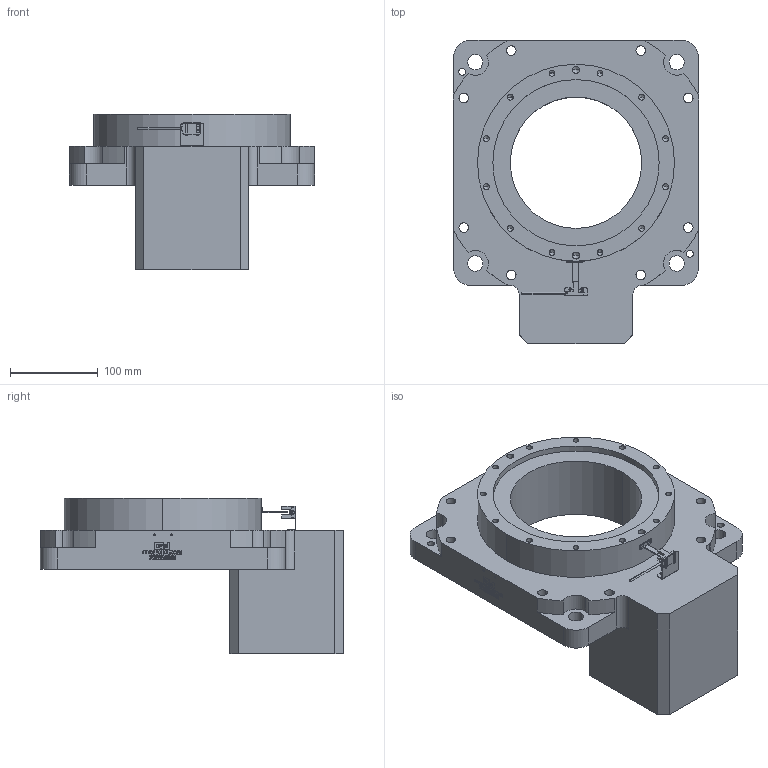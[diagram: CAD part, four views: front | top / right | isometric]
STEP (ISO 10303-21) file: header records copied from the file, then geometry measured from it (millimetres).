
FILE_DESCRIPTION (( 'STEP AP214' ), '1' );
FILE_NAME ('GT280-C-10-24-110-145-M8.STEP', '2024-07-04T07:29:25', ( '' ), ( '' ), 'SwSTEP 2.0', 'SolidWorks 2021', '' );
FILE_SCHEMA (( 'AUTOMOTIVE_DESIGN' ));
Length unit declared in the file: millimetre
Products named in the file (1): GT280-C-10-24-110-145-M8
Bounding box: 280 x 346.5 x 178 mm (x, y, z)
Volume: 5064272.4 mm3; surface area: 339737.8 mm2
Topology: 4 solids, 6 shells, 816 faces, 2216 edges, 1434 vertices
Faces by surface type: plane 545, cylinder 150, bspline 69, cone 52
Entity records: 29433 total; most frequent: CARTESIAN_POINT 5744, ORIENTED_EDGE 4328, DIRECTION 3782, EDGE_CURVE 2164, VECTOR 1686, LINE 1686, VERTEX_POINT 1434, AXIS2_PLACEMENT_3D 1048
